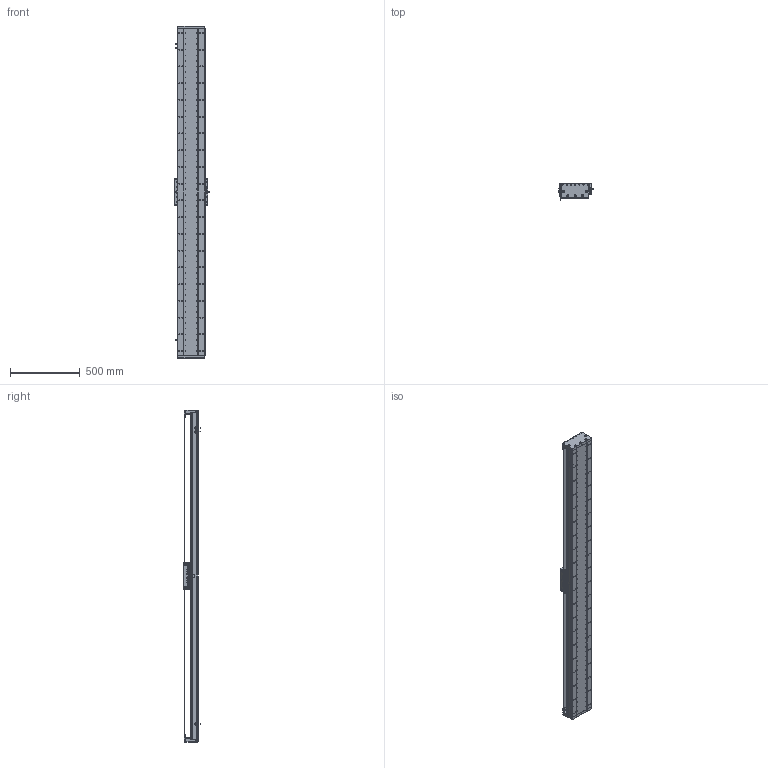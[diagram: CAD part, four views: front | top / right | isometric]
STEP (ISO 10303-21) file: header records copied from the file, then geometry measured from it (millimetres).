
FILE_DESCRIPTION (( 'STEP AP203' ), '1' );
FILE_NAME ('DA-C195-C2-T2100-C010-0.2 眻盄萇儂.STEP', '2025-08-15T01:10:42', ( '' ), ( '' ), 'SwSTEP 2.0', 'SolidWorks 2019', '' );
FILE_SCHEMA (( 'CONFIG_CONTROL_DESIGN' ));
Length unit declared in the file: millimetre
Products named in the file (15): IU-CU195-L-00 菁釱(L2340); DA195詩湍裔啣; PM-T45ㄗ侂狟ㄘ; DA195詩湍郪璃; DA165-GYP-00 光电感应片(默认); IU-CU195-L 菁釱絳寢; DA-C195-GD-DB-H-00 傷啣; DA-C195-C2-T2100-C010-0.2 眻盄萇儂; 葩璃 DA95-GT-T-00; CU195-C2賑輸-俋楷; DA195詩湍嶺輸; MS200 棠掑喜S315-T1740; DA95-HXJ-00 遣喳砎蝶; LMT黍杅芛; DA195詩湍菜輸
Assembly tree (29 placements, depth 3):
  DA-C195-C2-T2100-C010-0.2 眻盄萇儂
    DA195詩湍郪璃
      DA195詩湍菜輸  x2
      DA195詩湍裔啣
      DA195詩湍嶺輸  x2
      DA95-HXJ-00 遣喳砎蝶  x8
      DA-C195-GD-DB-H-00 傷啣  x2
    IU-CU195-L 菁釱絳寢
      IU-CU195-L-00 菁釱(L2340)
      葩璃 DA95-GT-T-00  x4
    LMT黍杅芛
    MS200 棠掑喜S315-T1740
    PM-T45ㄗ侂狟ㄘ  x3
    DA165-GYP-00 光电感应片(默认)
    CU195-C2賑輸-俋楷
Bounding box: 248 x 115.45 x 2380 mm (x, y, z)
Volume: 13838303.3 mm3; surface area: 4078684.9 mm2
Topology: 66 solids, 130 shells, 4294 faces, 11899 edges, 7479 vertices
Faces by surface type: cylinder 2279, plane 1397, cone 530, torus 52, sphere 36
Entity records: 135745 total; most frequent: CARTESIAN_POINT 36266, ORIENTED_EDGE 20682, DIRECTION 20096, EDGE_CURVE 10341, AXIS2_PLACEMENT_3D 7545, VERTEX_POINT 6681, VECTOR 5006, LINE 5006
